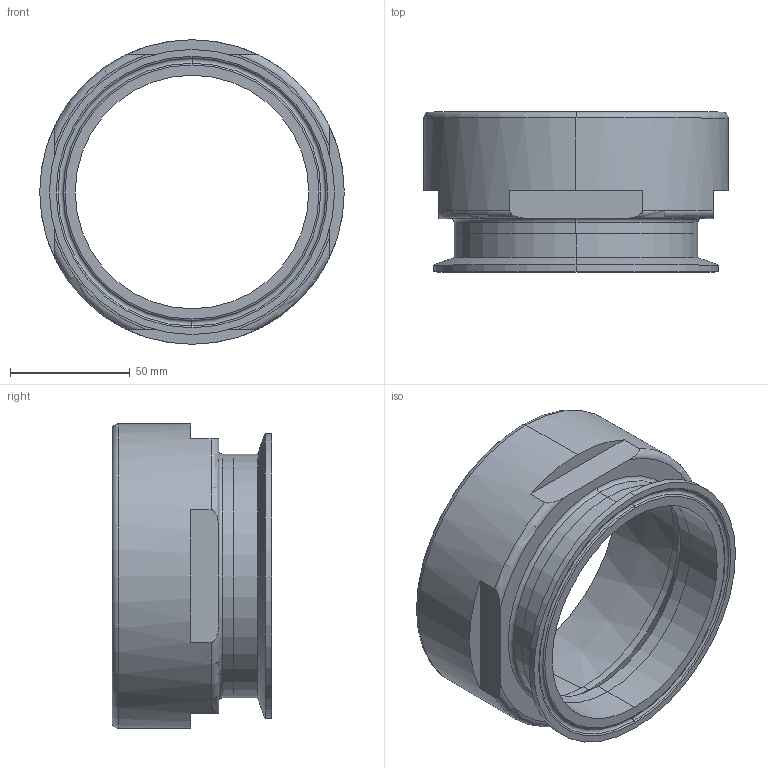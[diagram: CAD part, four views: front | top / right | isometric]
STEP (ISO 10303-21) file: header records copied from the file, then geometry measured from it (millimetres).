
FILE_DESCRIPTION (( 'STEP AP203' ), '1' );
FILE_NAME ('EG22 4.0.STEP', '2021-10-08T17:48:01', ( '' ), ( '' ), 'SwSTEP 2.0', 'SolidWorks 2021', '' );
FILE_SCHEMA (( 'CONFIG_CONTROL_DESIGN' ));
Length unit declared in the file: inch
Products named in the file (3): 22WBF4.0; EG22 4.0; EG2CS4.0
Assembly tree (2 placements, depth 2):
  EG22 4.0
    EG2CS4.0
    22WBF4.0
Bounding box: 127 x 66.67 x 127 mm (x, y, z)
Volume: 152346.6 mm3; surface area: 61685.2 mm2
Topology: 2 solids, 2 shells, 49 faces, 110 edges, 68 vertices
Faces by surface type: plane 15, cylinder 14, torus 14, cone 6
Entity records: 1837 total; most frequent: CARTESIAN_POINT 384, DIRECTION 276, ORIENTED_EDGE 220, AXIS2_PLACEMENT_3D 120, EDGE_CURVE 110, VERTEX_POINT 68, CIRCLE 66, EDGE_LOOP 56
